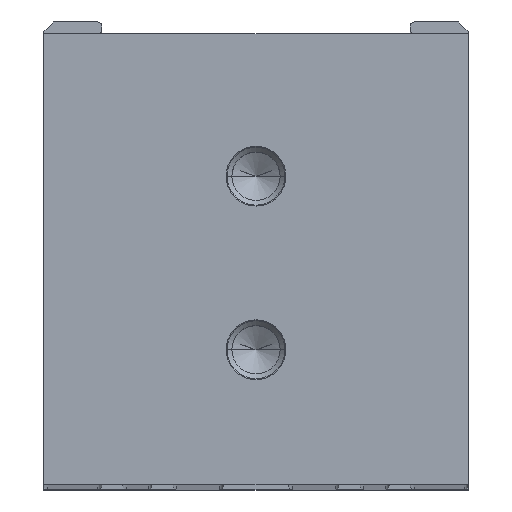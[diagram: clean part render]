
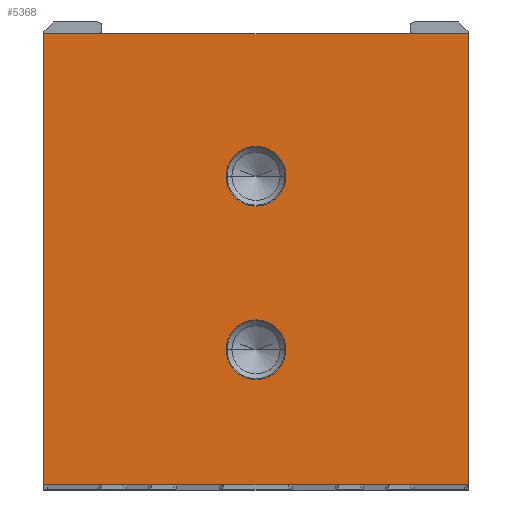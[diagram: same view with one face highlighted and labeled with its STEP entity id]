
A CAD part, top view. The second image highlights one B-rep face of the part: STEP entity #5368.
In plain terms, the highlighted planar face has unit normal (0, 0, 1).
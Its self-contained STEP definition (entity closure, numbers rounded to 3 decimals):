
#665=DIRECTION('',(-1.,0.,0.));
#666=VECTOR('',#665,22.);
#667=CARTESIAN_POINT('',(11.,11.402,72.));
#668=LINE('',#667,#666);
#669=DIRECTION('',(0.,1.,0.));
#670=VECTOR('',#669,23.387);
#671=CARTESIAN_POINT('',(11.,-11.985,72.));
#672=LINE('',#671,#670);
#673=DIRECTION('',(1.,0.001,0.));
#674=VECTOR('',#673,22.);
#675=CARTESIAN_POINT('',(-11.,-12.007,72.));
#676=LINE('',#675,#674);
#677=DIRECTION('',(0.,-1.,0.));
#678=VECTOR('',#677,23.409);
#679=CARTESIAN_POINT('',(-11.,11.402,72.));
#680=LINE('',#679,#678);
#681=CARTESIAN_POINT('',(0.,-4.996,
72.));
#682=DIRECTION('',(0.,0.,-1.));
#683=DIRECTION('',(-1.,0.,0.));
#684=AXIS2_PLACEMENT_3D('',#681,#682,#683);
#686=CARTESIAN_POINT('',(0.,-4.996,
72.));
#687=DIRECTION('',(0.,0.,-1.));
#688=DIRECTION('',(1.,0.,0.));
#689=AXIS2_PLACEMENT_3D('',#686,#687,#688);
#691=CARTESIAN_POINT('',(0.,4.004,72.));
#692=DIRECTION('',(0.,0.,-1.));
#693=DIRECTION('',(-1.,0.,0.));
#694=AXIS2_PLACEMENT_3D('',#691,#692,#693);
#696=CARTESIAN_POINT('',(0.,4.004,72.));
#697=DIRECTION('',(0.,0.,-1.));
#698=DIRECTION('',(1.,0.,0.));
#699=AXIS2_PLACEMENT_3D('',#696,#697,#698);
#2933=CARTESIAN_POINT('',(-11.,11.402,72.));
#2934=CARTESIAN_POINT('',(-11.,-12.007,72.));
#2935=VERTEX_POINT('',#2933);
#2936=VERTEX_POINT('',#2934);
#2937=CARTESIAN_POINT('',(11.,-11.985,72.));
#2938=VERTEX_POINT('',#2937);
#2939=CARTESIAN_POINT('',(11.,11.402,72.));
#2940=VERTEX_POINT('',#2939);
#3735=CARTESIAN_POINT('',(-1.55,-4.996,
72.));
#3736=CARTESIAN_POINT('',(1.55,-4.996,72.));
#3737=VERTEX_POINT('',#3735);
#3738=VERTEX_POINT('',#3736);
#3743=CARTESIAN_POINT('',(-1.55,4.004,72.));
#3744=CARTESIAN_POINT('',(1.55,4.004,72.));
#3745=VERTEX_POINT('',#3743);
#3746=VERTEX_POINT('',#3744);
#5345=CARTESIAN_POINT('',(0.,0.,72.));
#5346=DIRECTION('',(0.,0.,1.));
#5347=DIRECTION('',(1.,0.,0.));
#5348=AXIS2_PLACEMENT_3D('',#5345,#5346,#5347);
#5349=PLANE('',#5348);
#5350=ORIENTED_EDGE('',*,*,#3816,.F.);
#5351=ORIENTED_EDGE('',*,*,#3911,.F.);
#5352=ORIENTED_EDGE('',*,*,#5325,.F.);
#5353=ORIENTED_EDGE('',*,*,#4064,.F.);
#5354=EDGE_LOOP('',(#5350,#5351,#5352,#5353));
#5355=FACE_OUTER_BOUND('',#5354,.F.);
#5357=ORIENTED_EDGE('',*,*,#5356,.F.);
#5359=ORIENTED_EDGE('',*,*,#5358,.F.);
#5360=EDGE_LOOP('',(#5357,#5359));
#5361=FACE_BOUND('',#5360,.F.);
#5363=ORIENTED_EDGE('',*,*,#5362,.F.);
#5365=ORIENTED_EDGE('',*,*,#5364,.F.);
#5366=EDGE_LOOP('',(#5363,#5365));
#5367=FACE_BOUND('',#5366,.F.);
#685=CIRCLE('',#684,1.55);
#690=CIRCLE('',#689,1.55);
#695=CIRCLE('',#694,1.55);
#700=CIRCLE('',#699,1.55);
#3816=EDGE_CURVE('',#2940,#2935,#668,.T.);
#3911=EDGE_CURVE('',#2938,#2940,#672,.T.);
#4064=EDGE_CURVE('',#2935,#2936,#680,.T.);
#5325=EDGE_CURVE('',#2936,#2938,#676,.T.);
#5356=EDGE_CURVE('',#3737,#3738,#685,.T.);
#5358=EDGE_CURVE('',#3738,#3737,#690,.T.);
#5362=EDGE_CURVE('',#3745,#3746,#695,.T.);
#5364=EDGE_CURVE('',#3746,#3745,#700,.T.);
#5368=ADVANCED_FACE('',(#5355,#5361,#5367),#5349,.T.);
